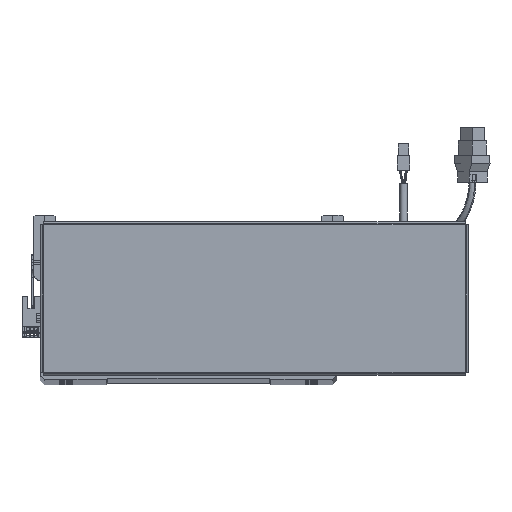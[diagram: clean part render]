
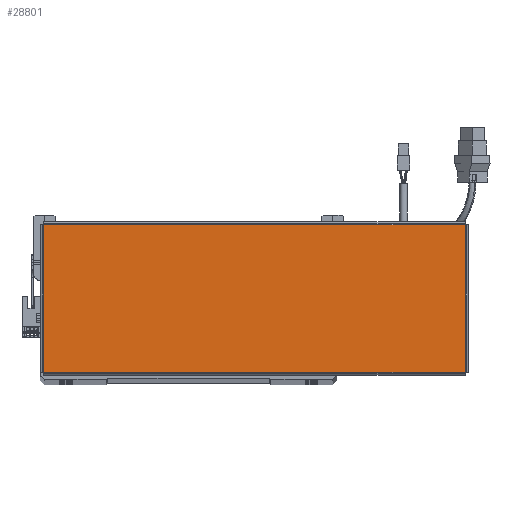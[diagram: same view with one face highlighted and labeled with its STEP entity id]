
A CAD part, top view. The second image highlights one B-rep face of the part: STEP entity #28801.
In plain terms, the highlighted planar face has unit normal (0, 0, 1).
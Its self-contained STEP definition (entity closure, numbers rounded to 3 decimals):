
#2300 = CARTESIAN_POINT ( 'NONE',  ( -156.513, -54.763, 0. ) ) ;
#3739 = VERTEX_POINT ( 'NONE', #12971 ) ;
#8864 = PLANE ( 'NONE',  #40468 ) ;
#10505 = VERTEX_POINT ( 'NONE', #29332 ) ;
#10875 = FACE_OUTER_BOUND ( 'NONE', #65192, .T. ) ;
#12006 = ORIENTED_EDGE ( 'NONE', *, *, #25772, .T. ) ;
#12220 = ORIENTED_EDGE ( 'NONE', *, *, #72103, .T. ) ;
#12971 = CARTESIAN_POINT ( 'NONE',  ( 156.513, 54.763, 0. ) ) ;
#14271 = VECTOR ( 'NONE', #51511, 1000. ) ;
#14953 = EDGE_CURVE ( 'NONE', #10505, #16376, #34051, .T. ) ;
#15028 = CARTESIAN_POINT ( 'NONE',  ( -156.543, -54.763, 0. ) ) ;
#16376 = VERTEX_POINT ( 'NONE', #2300 ) ;
#23607 = ORIENTED_EDGE ( 'NONE', *, *, #14953, .T. ) ;
#24495 = LINE ( 'NONE', #61058, #70548 ) ;
#24519 = DIRECTION ( 'NONE',  ( -1., 0., 0. ) ) ;
#24960 = CARTESIAN_POINT ( 'NONE',  ( 156.513, -54.763, 0. ) ) ;
#25772 = EDGE_CURVE ( 'NONE', #3739, #10505, #24495, .T. ) ;
#28801 = ADVANCED_FACE ( 'NONE', ( #10875 ), #8864, .T. ) ;
#29332 = CARTESIAN_POINT ( 'NONE',  ( -156.513, 54.763, 0. ) ) ;
#32283 = DIRECTION ( 'NONE',  ( 0., 0., 1. ) ) ;
#33574 = VERTEX_POINT ( 'NONE', #24960 ) ;
#34051 = LINE ( 'NONE', #68047, #14271 ) ;
#34786 = CARTESIAN_POINT ( 'NONE',  ( 156.513, -54.793, 0. ) ) ;
#36756 = ORIENTED_EDGE ( 'NONE', *, *, #55642, .T. ) ;
#40468 = AXIS2_PLACEMENT_3D ( 'NONE', #68286, #32283, #74383 ) ;
#48015 = VECTOR ( 'NONE', #75569, 1000. ) ;
#51511 = DIRECTION ( 'NONE',  ( 0., -1., 0. ) ) ;
#52685 = LINE ( 'NONE', #15028, #48015 ) ;
#52751 = LINE ( 'NONE', #34786, #53651 ) ;
#53651 = VECTOR ( 'NONE', #71349, 1000. ) ;
#55642 = EDGE_CURVE ( 'NONE', #16376, #33574, #52685, .T. ) ;
#61058 = CARTESIAN_POINT ( 'NONE',  ( 156.543, 54.763, 0. ) ) ;
#65192 = EDGE_LOOP ( 'NONE', ( #36756, #12220, #12006, #23607 ) ) ;
#68047 = CARTESIAN_POINT ( 'NONE',  ( -156.513, 54.793, 0. ) ) ;
#68286 = CARTESIAN_POINT ( 'NONE',  ( 0., 0., 0. ) ) ;
#70548 = VECTOR ( 'NONE', #24519, 1000. ) ;
#71349 = DIRECTION ( 'NONE',  ( 0., 1., 0. ) ) ;
#72103 = EDGE_CURVE ( 'NONE', #33574, #3739, #52751, .T. ) ;
#74383 = DIRECTION ( 'NONE',  ( 1., 0., 0. ) ) ;
#75569 = DIRECTION ( 'NONE',  ( 1., 0., 0. ) ) ;
